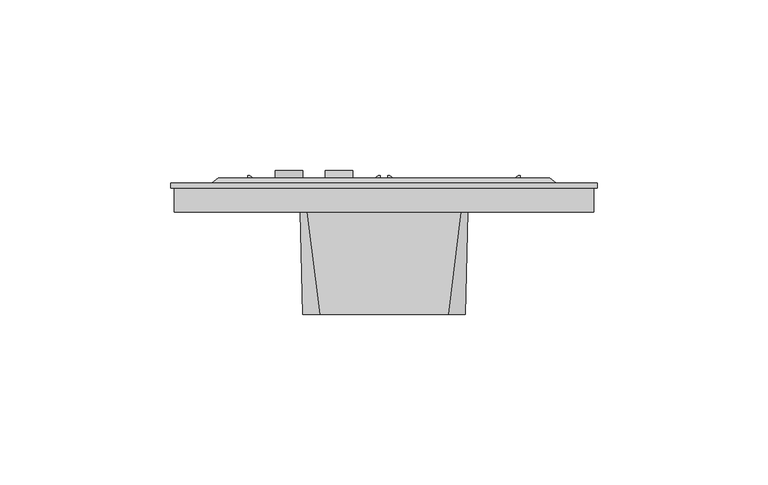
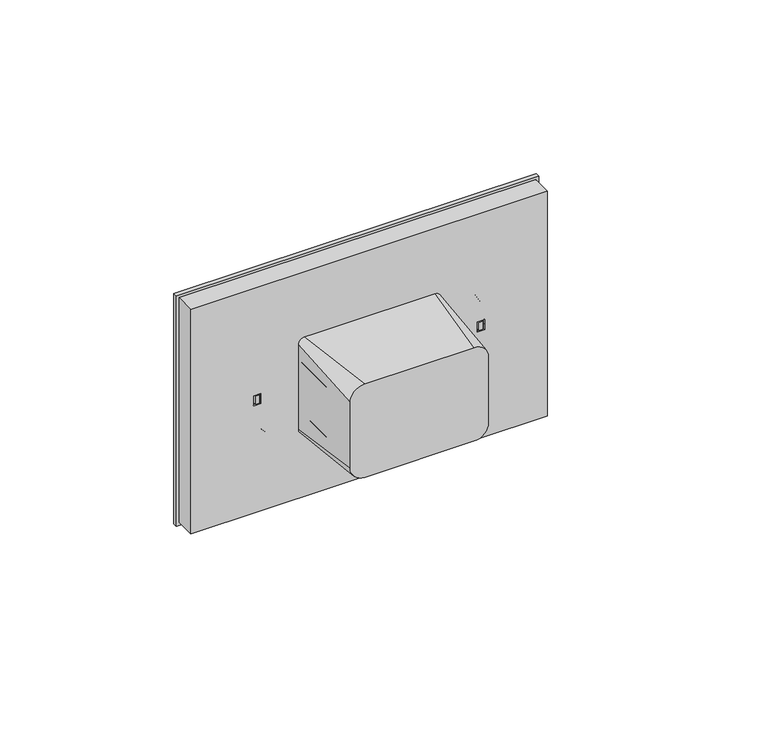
"""IFC4 building model written with IfcOpenShell, lengths in millimetres: proxy geometry, IEK_Brite_Розетка_2гн : 230 В PE_РС12-3-БрА."""

from ifc_helpers import new_model, si_unit, point, frame, frame_2d, origin, place, context, project, spatial, polyline, circle_curve, ellipse_curve, trimmed, segment, composite_curve, outline, extrude, source, transform, mapped, element, save
from ifc_brep_helpers import plane_surface, cylinder_surface, revolved_surface, spline_surface, advanced_brep


def electrical_fixtures_ccb00a8f(model_context):
    return source(origin(), model_context, "Body", "SolidModel", [
        advanced_brep(
        [(20.5, 0.0, -6.3904783), (20.5, 0.0, -11.8753617), (20.5, 0.5, -11.8753617), (20.5, 0.5, -6.3904783), (20.5, 0.0, 3.0105286), (20.5, 0.0, -3.0105286), (20.5, 0.5, -3.0105286), (20.5, 0.5, 3.0105286), (20.5, 0.0, 11.8753617), (20.5, 0.0, 6.3904783), (20.5, 0.5, 6.3904783), (20.5, 0.5, 11.8753617), (39.8280847, 0.0, -1.7917908), (39.8280847, 0.0, 0.0), (39.8280847, 0.5, 0.0), (39.8280847, 0.5, -1.7917908), (39.8280847, 0.0, 1.7917908), (39.8280847, 0.5, 1.7917908), (37.3280847, 0.0, 1.7917908), (37.3280847, 0.5, 1.7917908), (37.3280847, 0.0, 0.0), (37.3280847, 0.5, 0.0), (37.3280847, 0.0, -1.7917908), (37.3280847, 0.5, -1.7917908), (1.1719153, 0.0, -1.7917908), (3.6719153, 0.0, -1.7917908), (3.6719153, 0.5, -1.7917908), (1.1719153, 0.5, -1.7917908), (3.6719153, 0.0, 0.0), (3.6719153, 0.5, 0.0), (3.6719153, 0.0, 1.7917908), (3.6719153, 0.5, 1.7917908), (1.1719153, 0.0, 1.7917908), (1.1719153, 0.5, 1.7917908), (1.1719153, 0.0, 0.0), (1.1719153, 0.5, 0.0), (-20.5, 0.0, -6.3904783), (-20.5, 0.0, -11.8753617), (-20.5, 0.5, -11.8753617), (-20.5, 0.5, -6.3904783), (-20.5, 0.0, 3.0105286), (-20.5, 0.0, -3.0105286), (-20.5, 0.5, -3.0105286), (-20.5, 0.5, 3.0105286), (-20.5, 0.0, 11.8753617), (-20.5, 0.0, 6.3904783), (-20.5, 0.5, 6.3904783), (-20.5, 0.5, 11.8753617), (-39.8280847, 0.0, -1.7917908), (-37.3280847, 0.0, -1.7917908), (-37.3280847, 0.5, -1.7917908), (-39.8280847, 0.5, -1.7917908), (-37.3280847, 0.0, 0.0), (-37.3280847, 0.5, 0.0), (-37.3280847, 0.0, 1.7917908), (-37.3280847, 0.5, 1.7917908), (-39.8280847, 0.0, 1.7917908), (-39.8280847, 0.5, 1.7917908), (-39.8280847, 0.0, 0.0), (-39.8280847, 0.5, 0.0), (-1.1719153, 0.0, -1.7917908), (-1.1719153, 0.0, 0.0), (-1.1719153, 0.5, 0.0), (-1.1719153, 0.5, -1.7917908), (-1.1719153, 0.0, 1.7917908), (-1.1719153, 0.5, 1.7917908), (-3.6719153, 0.0, 1.7917908), (-3.6719153, 0.5, 1.7917908), (-3.6719153, 0.0, 0.0), (-3.6719153, 0.5, 0.0), (-3.6719153, 0.0, -1.7917908), (-3.6719153, 0.5, -1.7917908), (-48.5, 10.0, 28.0), (48.5, 10.0, 28.0), (48.5, 10.0, -28.0), (-48.5, 10.0, -28.0), (-0.5, 10.0, 0.0), (-40.5, 10.0, 0.0), (40.5, 10.0, 0.0), (0.5, 10.0, 0.0), (-50.5, 8.5, -30.0), (-50.5, 8.5, 30.0), (50.5, 8.5, -30.0), (50.5, 8.5, 30.0), (-0.5, 0.5, 0.0), (-40.5, 0.5, 0.0), (40.5, 0.5, 0.0), (0.5, 0.5, 0.0), (-62.5, 7.0, 42.0), (-62.5, 7.0, -42.0), (62.5, 7.0, -42.0), (62.5, 7.0, 42.0), (-61.5, 7.0, -41.0), (-61.5, 7.0, 41.0), (61.5, 7.0, 41.0), (61.5, 7.0, -41.0), (-62.5, 8.5, 42.0), (62.5, 8.5, 42.0), (62.5, 8.5, -42.0), (-62.5, 8.5, -42.0), (-61.5, 0.0, 41.0), (-61.5, 0.0, -41.0), (61.5, 0.0, -41.0), (61.5, 0.0, 41.0)],
        [
            (0, 1, circle_curve(frame((20.5, 0.0, -9.13292), z_axis=(0.0, -1.0, 0.0), x_axis=(0.0, 0.0, -1.0)), 2.7424417)),
            (1, 2),
            (2, 3, circle_curve(frame((20.5, 0.5, -9.13292), z_axis=(0.0, 1.0, 0.0), x_axis=(0.0, 0.0, -1.0)), 2.7424417)),
            (3, 0),
            (1, 0, circle_curve(frame((20.5, 0.0, -9.13292), z_axis=(0.0, -1.0, 0.0), x_axis=(0.0, 0.0, -1.0)), 2.7424417)),
            (3, 2, circle_curve(frame((20.5, 0.5, -9.13292), z_axis=(0.0, 1.0, 0.0), x_axis=(0.0, 0.0, -1.0)), 2.7424417)),
            (4, 5, circle_curve(frame((20.5, 0.0, 0.0), z_axis=(0.0, -1.0, 0.0), x_axis=(0.0, 0.0, -1.0)), 3.0105286)),
            (5, 6),
            (6, 7, circle_curve(frame((20.5, 0.5, 0.0), z_axis=(0.0, 1.0, 0.0), x_axis=(0.0, 0.0, -1.0)), 3.0105286)),
            (7, 4),
            (5, 4, circle_curve(frame((20.5, 0.0, 0.0), z_axis=(0.0, -1.0, 0.0), x_axis=(0.0, 0.0, -1.0)), 3.0105286)),
            (7, 6, circle_curve(frame((20.5, 0.5, 0.0), z_axis=(0.0, 1.0, 0.0), x_axis=(0.0, 0.0, -1.0)), 3.0105286)),
            (8, 9, circle_curve(frame((20.5, 0.0, 9.13292), z_axis=(0.0, -1.0, 0.0), x_axis=(0.0, 0.0, -1.0)), 2.7424417)),
            (9, 10),
            (10, 11, circle_curve(frame((20.5, 0.5, 9.13292), z_axis=(0.0, 1.0, 0.0), x_axis=(0.0, 0.0, -1.0)), 2.7424417)),
            (11, 8),
            (9, 8, circle_curve(frame((20.5, 0.0, 9.13292), z_axis=(0.0, -1.0, 0.0), x_axis=(0.0, 0.0, -1.0)), 2.7424417)),
            (11, 10, circle_curve(frame((20.5, 0.5, 9.13292), z_axis=(0.0, 1.0, 0.0), x_axis=(0.0, 0.0, -1.0)), 2.7424417)),
            (12, 13),
            (13, 14),
            (14, 15),
            (15, 12),
            (13, 16),
            (16, 17),
            (17, 14),
            (16, 18),
            (18, 19),
            (19, 17),
            (18, 20),
            (20, 21),
            (21, 19),
            (20, 22),
            (22, 23),
            (23, 21),
            (22, 12),
            (15, 23),
            (24, 25),
            (25, 26),
            (26, 27),
            (27, 24),
            (25, 28),
            (28, 29),
            (29, 26),
            (28, 30),
            (30, 31),
            (31, 29),
            (30, 32),
            (32, 33),
            (33, 31),
            (32, 34),
            (34, 35),
            (35, 33),
            (34, 24),
            (27, 35),
            (36, 37, circle_curve(frame((-20.5, 0.0, -9.13292), z_axis=(0.0, -1.0, 0.0), x_axis=(0.0, 0.0, -1.0)), 2.7424417)),
            (37, 38),
            (38, 39, circle_curve(frame((-20.5, 0.5, -9.13292), z_axis=(0.0, 1.0, 0.0), x_axis=(0.0, 0.0, -1.0)), 2.7424417)),
            (39, 36),
            (37, 36, circle_curve(frame((-20.5, 0.0, -9.13292), z_axis=(0.0, -1.0, 0.0), x_axis=(0.0, 0.0, -1.0)), 2.7424417)),
            (39, 38, circle_curve(frame((-20.5, 0.5, -9.13292), z_axis=(0.0, 1.0, 0.0), x_axis=(0.0, 0.0, -1.0)), 2.7424417)),
            (40, 41, circle_curve(frame((-20.5, 0.0, 0.0), z_axis=(0.0, -1.0, 0.0), x_axis=(0.0, 0.0, -1.0)), 3.0105286)),
            (41, 42),
            (42, 43, circle_curve(frame((-20.5, 0.5, 0.0), z_axis=(0.0, 1.0, 0.0), x_axis=(0.0, 0.0, -1.0)), 3.0105286)),
            (43, 40),
            (41, 40, circle_curve(frame((-20.5, 0.0, 0.0), z_axis=(0.0, -1.0, 0.0), x_axis=(0.0, 0.0, -1.0)), 3.0105286)),
            (43, 42, circle_curve(frame((-20.5, 0.5, 0.0), z_axis=(0.0, 1.0, 0.0), x_axis=(0.0, 0.0, -1.0)), 3.0105286)),
            (44, 45, circle_curve(frame((-20.5, 0.0, 9.13292), z_axis=(0.0, -1.0, 0.0), x_axis=(0.0, 0.0, -1.0)), 2.7424417)),
            (45, 46),
            (46, 47, circle_curve(frame((-20.5, 0.5, 9.13292), z_axis=(0.0, 1.0, 0.0), x_axis=(0.0, 0.0, -1.0)), 2.7424417)),
            (47, 44),
            (45, 44, circle_curve(frame((-20.5, 0.0, 9.13292), z_axis=(0.0, -1.0, 0.0), x_axis=(0.0, 0.0, -1.0)), 2.7424417)),
            (47, 46, circle_curve(frame((-20.5, 0.5, 9.13292), z_axis=(0.0, 1.0, 0.0), x_axis=(0.0, 0.0, -1.0)), 2.7424417)),
            (48, 49),
            (49, 50),
            (50, 51),
            (51, 48),
            (49, 52),
            (52, 53),
            (53, 50),
            (52, 54),
            (54, 55),
            (55, 53),
            (54, 56),
            (56, 57),
            (57, 55),
            (56, 58),
            (58, 59),
            (59, 57),
            (58, 48),
            (51, 59),
            (60, 61),
            (61, 62),
            (62, 63),
            (63, 60),
            (61, 64),
            (64, 65),
            (65, 62),
            (64, 66),
            (66, 67),
            (67, 65),
            (66, 68),
            (68, 69),
            (69, 67),
            (68, 70),
            (70, 71),
            (71, 69),
            (70, 60),
            (63, 71),
            (72, 73),
            (73, 74),
            (74, 75),
            (75, 72),
            (76, 77, circle_curve(frame((-20.5, 10.0, 0.0), z_axis=(0.0, -1.0, 0.0), x_axis=(-1.0, 0.0, 0.0)), 20.0)),
            (77, 76, circle_curve(frame((-20.5, 10.0, 0.0), z_axis=(0.0, -1.0, 0.0), x_axis=(-1.0, 0.0, 0.0)), 20.0)),
            (78, 79, circle_curve(frame((20.5, 10.0, 0.0), z_axis=(0.0, -1.0, 0.0), x_axis=(-1.0, 0.0, 0.0)), 20.0)),
            (79, 78, circle_curve(frame((20.5, 10.0, 0.0), z_axis=(0.0, -1.0, 0.0), x_axis=(-1.0, 0.0, 0.0)), 20.0)),
            (75, 80),
            (80, 81),
            (81, 72),
            (74, 82),
            (82, 80),
            (73, 83),
            (83, 82),
            (81, 83),
            (84, 85, circle_curve(frame((-20.5, 0.5, 0.0), z_axis=(0.0, 1.0, 0.0), x_axis=(-1.0, 0.0, 0.0)), 20.0)),
            (85, 84, circle_curve(frame((-20.5, 0.5, 0.0), z_axis=(0.0, 1.0, 0.0), x_axis=(-1.0, 0.0, 0.0)), 20.0)),
            (86, 87, circle_curve(frame((20.5, 0.5, 0.0), z_axis=(0.0, 1.0, 0.0), x_axis=(-1.0, 0.0, 0.0)), 20.0)),
            (87, 86, circle_curve(frame((20.5, 0.5, 0.0), z_axis=(0.0, 1.0, 0.0), x_axis=(-1.0, 0.0, 0.0)), 20.0)),
            (85, 77),
            (76, 84),
            (87, 79),
            (78, 86),
            (88, 89),
            (89, 90),
            (90, 91),
            (91, 88),
            (92, 93),
            (93, 94),
            (94, 95),
            (95, 92),
            (96, 97),
            (97, 98),
            (98, 99),
            (99, 96),
            (91, 97),
            (96, 88),
            (90, 98),
            (89, 99),
            (100, 101),
            (101, 102),
            (102, 103),
            (103, 100),
            (100, 93),
            (92, 101),
            (95, 102),
            (94, 103),
        ],
        [
            revolved_surface(polyline([(20.5, 0.0, -11.875361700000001), (20.5, 0.5, -11.875361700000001)]), (20.5, 1.0, -9.13292), (0.0, -1.0, 0.0)),
            revolved_surface(polyline([(20.5, 0.0, -3.0105286), (20.5, 0.5, -3.0105286)]), (20.5, -2.0, 0.0), (0.0, -1.0, 0.0)),
            revolved_surface(polyline([(20.5, 0.0, 6.3904783), (20.5, 0.5, 6.3904783)]), (20.5, -2.0, 9.13292), (0.0, -1.0, 0.0)),
            plane_surface(frame((39.8280847, -13.4962918, -1.7917908), z_axis=(-1.0, 0.0, 0.0), x_axis=(0.0, 1.0, 0.0))),
            plane_surface(frame((39.8280847, -13.4962918, 0.0), z_axis=(-1.0, 0.0, 0.0), x_axis=(0.0, 1.0, 0.0))),
            plane_surface(frame((39.8280847, -13.4962918, 1.7917908), z_axis=(0.0, 0.0, -1.0), x_axis=(0.0, 1.0, 0.0))),
            plane_surface(frame((37.3280847, -13.4962918, 1.7917908), z_axis=(1.0, 0.0, 0.0), x_axis=(0.0, 1.0, 0.0))),
            plane_surface(frame((37.3280847, -13.4962918, 0.0), z_axis=(1.0, 0.0, 0.0), x_axis=(0.0, 1.0, 0.0))),
            plane_surface(frame((37.3280847, -13.4962918, -1.7917908), z_axis=(0.0, 0.0, 1.0), x_axis=(0.0, 1.0, 0.0))),
            plane_surface(frame((1.1719153, -13.4962918, -1.7917908), z_axis=(0.0, 0.0, 1.0), x_axis=(0.0, 1.0, 0.0))),
            plane_surface(frame((3.6719153, -13.4962918, -1.7917908), z_axis=(-1.0, 0.0, 0.0), x_axis=(0.0, 1.0, 0.0))),
            plane_surface(frame((3.6719153, -13.4962918, 0.0), z_axis=(-1.0, 0.0, 0.0), x_axis=(0.0, 1.0, 0.0))),
            plane_surface(frame((3.6719153, -13.4962918, 1.7917908), z_axis=(0.0, 0.0, -1.0), x_axis=(0.0, 1.0, 0.0))),
            plane_surface(frame((1.1719153, -13.4962918, 1.7917908), z_axis=(1.0, 0.0, 0.0), x_axis=(0.0, 1.0, 0.0))),
            plane_surface(frame((1.1719153, -13.4962918, 0.0), z_axis=(1.0, 0.0, 0.0), x_axis=(0.0, 1.0, 0.0))),
            revolved_surface(polyline([(-20.5, 0.0, -11.875361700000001), (-20.5, 0.5, -11.875361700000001)]), (-20.5, -2.0, -9.13292), (0.0, -1.0, 0.0)),
            revolved_surface(polyline([(-20.5, 0.0, -3.0105286), (-20.5, 0.5, -3.0105286)]), (-20.5, -2.0, 0.0), (0.0, -1.0, 0.0)),
            revolved_surface(polyline([(-20.5, 0.0, 6.3904783), (-20.5, 0.5, 6.3904783)]), (-20.5, -2.0, 9.13292), (0.0, -1.0, 0.0)),
            plane_surface(frame((-39.8280847, -13.4962918, -1.7917908), z_axis=(0.0, 0.0, 1.0), x_axis=(0.0, 1.0, 0.0))),
            plane_surface(frame((-37.3280847, -13.4962918, -1.7917908), z_axis=(-1.0, 0.0, 0.0), x_axis=(0.0, 1.0, 0.0))),
            plane_surface(frame((-37.3280847, -13.4962918, 0.0), z_axis=(-1.0, 0.0, 0.0), x_axis=(0.0, 1.0, 0.0))),
            plane_surface(frame((-37.3280847, -13.4962918, 1.7917908), z_axis=(0.0, 0.0, -1.0), x_axis=(0.0, 1.0, 0.0))),
            plane_surface(frame((-39.8280847, -13.4962918, 1.7917908), z_axis=(1.0, 0.0, 0.0), x_axis=(0.0, 1.0, 0.0))),
            plane_surface(frame((-39.8280847, -13.4962918, 0.0), z_axis=(1.0, 0.0, 0.0), x_axis=(0.0, 1.0, 0.0))),
            plane_surface(frame((-1.1719153, -13.4962918, -1.7917908), z_axis=(-1.0, 0.0, 0.0), x_axis=(0.0, 1.0, 0.0))),
            plane_surface(frame((-1.1719153, -13.4962918, 0.0), z_axis=(-1.0, 0.0, 0.0), x_axis=(0.0, 1.0, 0.0))),
            plane_surface(frame((-1.1719153, -13.4962918, 1.7917908), z_axis=(0.0, 0.0, -1.0), x_axis=(0.0, 1.0, 0.0))),
            plane_surface(frame((-3.6719153, -13.4962918, 1.7917908), z_axis=(1.0, 0.0, 0.0), x_axis=(0.0, 1.0, 0.0))),
            plane_surface(frame((-3.6719153, -13.4962918, 0.0), z_axis=(1.0, 0.0, 0.0), x_axis=(0.0, 1.0, 0.0))),
            plane_surface(frame((-3.6719153, -13.4962918, -1.7917908), z_axis=(0.0, 0.0, 1.0), x_axis=(0.0, 1.0, 0.0))),
            plane_surface(frame((0.0, 10.0, 0.0), z_axis=(0.0, 1.0, 0.0), x_axis=(1.0, 0.0, 0.0))),
            plane_surface(frame((-48.5, 10.0, 0.0), z_axis=(-0.5999999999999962, 0.8000000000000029, 0.0), x_axis=(0.0, 0.0, -1.0))),
            plane_surface(frame((0.0, 10.0, -28.0), z_axis=(0.0, 0.7999999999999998, -0.6000000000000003), x_axis=(1.0, 0.0, 0.0))),
            plane_surface(frame((48.5, 10.0, 0.0), z_axis=(0.6000000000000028, 0.7999999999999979, 0.0), x_axis=(0.0, 0.0, 1.0))),
            plane_surface(frame((0.0, 10.0, 28.0), z_axis=(0.0, 0.7999999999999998, 0.6000000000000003), x_axis=(-1.0, 0.0, 0.0))),
            plane_surface(frame((-40.5, 0.5, 0.0), z_axis=(0.0, 1.0, 0.0), x_axis=(0.0, 0.0, -1.0))),
            revolved_surface(polyline([(-40.5, 10.0, 0.0), (-40.5, 0.5, 0.0)]), (-20.5, 0.5, 0.0), (0.0, 1.0, 0.0)),
            revolved_surface(polyline([(0.5, 10.0, 0.0), (0.5, 0.5, 0.0)]), (20.5, 0.0, 0.0), (0.0, 1.0, 0.0)),
            plane_surface(frame((62.5, 7.0, 42.0), z_axis=(0.0, -1.0, 0.0), x_axis=(-1.0, 0.0, 0.0))),
            plane_surface(frame((62.5, 8.5, 42.0), z_axis=(0.0, 1.0, 0.0), x_axis=(1.0, 0.0, 0.0))),
            plane_surface(frame((-62.5, 8.5, 42.0), z_axis=(0.0, 0.0, 1.0), x_axis=(0.0, -1.0, 0.0))),
            plane_surface(frame((62.5, 8.5, 42.0), z_axis=(1.0, 0.0, 0.0), x_axis=(0.0, -1.0, 0.0))),
            plane_surface(frame((62.5, 8.5, -42.0), z_axis=(0.0, 0.0, -1.0), x_axis=(0.0, -1.0, 0.0))),
            plane_surface(frame((-62.5, 8.5, -42.0), z_axis=(-1.0, 0.0, 0.0), x_axis=(0.0, -1.0, 0.0))),
            plane_surface(frame((-61.5, 0.0, 41.0), z_axis=(0.0, -1.0, 0.0), x_axis=(0.0, 0.0, -1.0))),
            plane_surface(frame((-61.5, 0.0, 41.0), z_axis=(-1.0, 0.0, 0.0), x_axis=(0.0, 1.0, 0.0))),
            plane_surface(frame((-61.5, 0.0, -41.0), z_axis=(0.0, 0.0, -1.0), x_axis=(0.0, 1.0, 0.0))),
            plane_surface(frame((61.5, 0.0, -41.0), z_axis=(1.0, 0.0, 0.0), x_axis=(0.0, 1.0, 0.0))),
            plane_surface(frame((61.5, 0.0, 41.0), z_axis=(0.0, 0.0, 1.0), x_axis=(0.0, 1.0, 0.0))),
        ],
        [
            (0, [[1, 2, 3, 4]]),
            (0, [[5, -4, 6, -2]]),
            (1, [[7, 8, 9, 10]]),
            (1, [[11, -10, 12, -8]]),
            (2, [[13, 14, 15, 16]]),
            (2, [[17, -16, 18, -14]]),
            (3, [[19, 20, 21, 22]]),
            (4, [[23, 24, 25, -20]]),
            (5, [[26, 27, 28, -24]]),
            (6, [[29, 30, 31, -27]]),
            (7, [[32, 33, 34, -30]]),
            (8, [[35, -22, 36, -33]]),
            (9, [[37, 38, 39, 40]]),
            (10, [[41, 42, 43, -38]]),
            (11, [[44, 45, 46, -42]]),
            (12, [[47, 48, 49, -45]]),
            (13, [[50, 51, 52, -48]]),
            (14, [[53, -40, 54, -51]]),
            (15, [[55, 56, 57, 58]]),
            (15, [[59, -58, 60, -56]]),
            (16, [[61, 62, 63, 64]]),
            (16, [[65, -64, 66, -62]]),
            (17, [[67, 68, 69, 70]]),
            (17, [[71, -70, 72, -68]]),
            (18, [[73, 74, 75, 76]]),
            (19, [[77, 78, 79, -74]]),
            (20, [[80, 81, 82, -78]]),
            (21, [[83, 84, 85, -81]]),
            (22, [[86, 87, 88, -84]]),
            (23, [[89, -76, 90, -87]]),
            (24, [[91, 92, 93, 94]]),
            (25, [[95, 96, 97, -92]]),
            (26, [[98, 99, 100, -96]]),
            (27, [[101, 102, 103, -99]]),
            (28, [[104, 105, 106, -102]]),
            (29, [[107, -94, 108, -105]]),
            (30, [[109, 110, 111, 112], [113, 114], [115, 116]]),
            (31, [[-112, 117, 118, 119]]),
            (32, [[-111, 120, 121, -117]]),
            (33, [[-110, 122, 123, -120]]),
            (34, [[-109, -119, 124, -122]]),
            (35, [[125, 126], [-57, -60], [-63, -66], [-69, -72], [-75, -79, -82, -85, -88, -90], [-93, -97, -100, -103, -106, -108]]),
            (35, [[127, 128], [-3, -6], [-9, -12], [-15, -18], [-21, -25, -28, -31, -34, -36], [-39, -43, -46, -49, -52, -54]]),
            (36, [[-126, 129, -113, 130]]),
            (36, [[-125, -130, -114, -129]]),
            (37, [[-128, 131, -115, 132]]),
            (37, [[-127, -132, -116, -131]]),
            (38, [[133, 134, 135, 136], [137, 138, 139, 140]]),
            (39, [[141, 142, 143, 144], [-118, -121, -123, -124]]),
            (40, [[-136, 145, -141, 146]]),
            (41, [[-135, 147, -142, -145]]),
            (42, [[-134, 148, -143, -147]]),
            (43, [[-133, -146, -144, -148]]),
            (44, [[149, 150, 151, 152], [-1, -5], [-7, -11], [-13, -17], [-19, -35, -32, -29, -26, -23], [-37, -53, -50, -47, -44, -41], [-55, -59], [-61, -65], [-67, -71], [-73, -89, -86, -83, -80, -77], [-91, -107, -104, -101, -98, -95]]),
            (45, [[-149, 153, -137, 154]]),
            (46, [[-150, -154, -140, 155]]),
            (47, [[-151, -155, -139, 156]]),
            (48, [[-152, -156, -138, -153]]),
        ],
    ),
        advanced_brep(
        [(-20.5, 1.3649081, 0.0), (-17.6013083, 0.578125, 0.0), (-23.3986917, 0.578125, 0.0), (-17.6013083, -1.2, 0.0), (-23.3986917, -1.2, 0.0), (-20.5, -1.2, 0.0)],
        [
            (0, 1, ellipse_curve(frame((-20.34375, 0.578125, 0.0), z_axis=(0.0, 0.0, -1.0), x_axis=(1.0, 0.0, 0.0)), 2.7424417, 0.7880633)),
            (1, 2, circle_curve(frame((-20.5, 0.578125, 0.0), z_axis=(0.0, 1.0, 0.0), x_axis=(1.0, 0.0, 0.0)), 2.8986917)),
            (2, 0, ellipse_curve(frame((-20.65625, 0.578125, 0.0), z_axis=(0.0, 0.0, -1.0), x_axis=(-1.0, 0.0, 0.0)), 2.7424417, 0.7880633)),
            (2, 1, circle_curve(frame((-20.5, 0.578125, 0.0), z_axis=(0.0, 1.0, 0.0), x_axis=(1.0, 0.0, 0.0)), 2.8986917)),
            (1, 3),
            (3, 4, circle_curve(frame((-20.5, -1.2, 0.0), z_axis=(0.0, 1.0, 0.0), x_axis=(1.0, 0.0, 0.0)), 2.8986917)),
            (4, 2),
            (4, 3, circle_curve(frame((-20.5, -1.2, 0.0), z_axis=(0.0, 1.0, 0.0), x_axis=(1.0, 0.0, 0.0)), 2.8986917)),
            (3, 5),
            (5, 4),
        ],
        [
            revolved_surface(trimmed(ellipse_curve(frame((-20.34375, 0.578125, 0.0), z_axis=(0.0, 0.0, 1.0), x_axis=(1.0, 0.0, 0.0)), 2.7424417, 0.7880633), [point((-17.6013083, 0.578125, 0.0))], [point((-20.5, 1.3649081, 0.0))], True, "CARTESIAN"), (-20.5, -2.5228134, 0.0), (0.0, 1.0, 0.0)),
            cylinder_surface(frame((-20.5, -2.5228134, 0.0), z_axis=(0.0, 1.0, 0.0), x_axis=(1.0, 0.0, 0.0)), 2.8986917),
            plane_surface(frame((-20.5, -1.2, 0.0), z_axis=(0.0, -1.0, 0.0), x_axis=(1.0, 0.0, 0.0))),
        ],
        [
            (0, [[1, 2, 3]]),
            (0, [[-3, 4, -1]]),
            (1, [[-2, 5, 6, 7]]),
            (1, [[-4, -7, 8, -5]]),
            (2, [[-6, 9, 10]]),
            (2, [[-8, -10, -9]]),
        ],
    ),
        advanced_brep(
        [(20.5, 1.3649081, 0.0), (23.3986917, 0.578125, 0.0), (17.6013083, 0.578125, 0.0), (23.3986917, -1.2, 0.0), (17.6013083, -1.2, 0.0), (20.5, -1.2, 0.0)],
        [
            (0, 1, ellipse_curve(frame((20.65625, 0.578125, 0.0), z_axis=(0.0, 0.0, -1.0), x_axis=(1.0, 0.0, 0.0)), 2.7424417, 0.7880633)),
            (1, 2, circle_curve(frame((20.5, 0.578125, 0.0), z_axis=(0.0, 1.0, 0.0), x_axis=(1.0, 0.0, 0.0)), 2.8986917)),
            (2, 0, ellipse_curve(frame((20.34375, 0.578125, 0.0), z_axis=(0.0, 0.0, -1.0), x_axis=(-1.0, 0.0, 0.0)), 2.7424417, 0.7880633)),
            (2, 1, circle_curve(frame((20.5, 0.578125, 0.0), z_axis=(0.0, 1.0, 0.0), x_axis=(1.0, 0.0, 0.0)), 2.8986917)),
            (1, 3),
            (3, 4, circle_curve(frame((20.5, -1.2, 0.0), z_axis=(0.0, 1.0, 0.0), x_axis=(1.0, 0.0, 0.0)), 2.8986917)),
            (4, 2),
            (4, 3, circle_curve(frame((20.5, -1.2, 0.0), z_axis=(0.0, 1.0, 0.0), x_axis=(1.0, 0.0, 0.0)), 2.8986917)),
            (3, 5),
            (5, 4),
        ],
        [
            revolved_surface(trimmed(ellipse_curve(frame((20.65625, 0.578125, 0.0), z_axis=(0.0, 0.0, 1.0), x_axis=(1.0, 0.0, 0.0)), 2.7424417, 0.7880633), [point((23.3986917, 0.578125, 0.0))], [point((20.5, 1.3649081, 0.0))], True, "CARTESIAN"), (20.5, -2.5228134, 0.0), (0.0, 1.0, 0.0)),
            cylinder_surface(frame((20.5, -2.5228134, 0.0), z_axis=(0.0, 1.0, 0.0), x_axis=(1.0, 0.0, 0.0)), 2.8986917),
            plane_surface(frame((20.5, -1.2, 0.0), z_axis=(0.0, -1.0, 0.0), x_axis=(1.0, 0.0, 0.0))),
        ],
        [
            (0, [[1, 2, 3]]),
            (0, [[-3, 4, -1]]),
            (1, [[-2, 5, 6, 7]]),
            (1, [[-4, -7, 8, -5]]),
            (2, [[-6, 9, 10]]),
            (2, [[-8, -10, -9]]),
        ],
    ),
        extrude(outline(composite_curve([segment(polyline([(-16.488464, -17.2019408), (-19.7261959, -17.2019408)]), True, "CONTINUOUS"), segment(trimmed(circle_curve(frame_2d((0.0, -20.5)), 20.0), [point((-19.7261959, -17.2019408))], [point((-16.488464, -9.1805232))], False, "CARTESIAN"), True, "CONTINUOUS"), segment(polyline([(-16.488464, -9.1805232), (-16.488464, -17.2019408)]), True, "CONTINUOUS")], self_intersect=False)), frame((0.0, 0.5, 0.0), z_axis=(0.0, 1.0, 0.0), x_axis=(0.0, 0.0, 1.0)), (0.0, 0.0, 1.0), 11.7142117),
        extrude(outline(composite_curve([segment(polyline([(-16.488464, -23.7980592), (-16.488464, -31.8194768)]), True, "CONTINUOUS"), segment(trimmed(circle_curve(frame_2d((0.0, -20.5)), 20.0), [point((-16.488464, -31.8194768))], [point((-19.7261959, -23.7980592))], False, "CARTESIAN"), True, "CONTINUOUS"), segment(polyline([(-19.7261959, -23.7980592), (-16.488464, -23.7980592)]), True, "CONTINUOUS")], self_intersect=False)), frame((0.0, 0.5, 0.0), z_axis=(0.0, 1.0, 0.0), x_axis=(0.0, 0.0, 1.0)), (0.0, 0.0, 1.0), 11.7142117),
        extrude(outline(composite_curve([segment(polyline([(16.488464, -17.2019408), (16.488464, -9.1805232)]), True, "CONTINUOUS"), segment(trimmed(circle_curve(frame_2d((0.0, -20.5)), 20.0), [point((16.488464, -9.1805232))], [point((19.7261959, -17.2019408))], False, "CARTESIAN"), True, "CONTINUOUS"), segment(polyline([(19.7261959, -17.2019408), (16.488464, -17.2019408)]), True, "CONTINUOUS")], self_intersect=False)), frame((0.0, 0.5, 0.0), z_axis=(0.0, 1.0, 0.0), x_axis=(0.0, 0.0, 1.0)), (0.0, 0.0, 1.0), 11.7142117),
        extrude(outline(composite_curve([segment(polyline([(16.488464, -23.7980592), (19.7261959, -23.7980592)]), True, "CONTINUOUS"), segment(trimmed(circle_curve(frame_2d((0.0, -20.5)), 20.0), [point((19.7261959, -23.7980592))], [point((16.488464, -31.8194768))], False, "CARTESIAN"), True, "CONTINUOUS"), segment(polyline([(16.488464, -31.8194768), (16.488464, -23.7980592)]), True, "CONTINUOUS")], self_intersect=False)), frame((0.0, 0.5, 0.0), z_axis=(0.0, 1.0, 0.0), x_axis=(0.0, 0.0, 1.0)), (0.0, 0.0, 1.0), 11.7142117),
        extrude(outline(composite_curve([segment(trimmed(circle_curve(frame_2d((-39.7322549, 9.5501956)), 1.2539127), [point((-39.8739261, 10.7960794))], [point((-38.8510967, 8.6580873))], False, "CARTESIAN"), True, "CONTINUOUS"), segment(polyline([(-38.8510967, 8.6580873), (-37.8437766, 0.0), (-39.1024531, 0.0), (-39.8739261, 10.7960794)]), True, "CONTINUOUS")], self_intersect=False)), frame((0.0, 0.0, -1.5), z_axis=(0.0, 0.0, 1.0), x_axis=(1.0, 0.0, 0.0)), (0.0, 0.0, 1.0), 3.0),
        extrude(outline(composite_curve([segment(polyline([(-1.1260739, 10.7960794), (-1.9832973, -1.2), (-3.2958366, -1.2), (-2.1489033, 8.6580873)]), True, "CONTINUOUS"), segment(trimmed(circle_curve(frame_2d((-1.2677451, 9.5501956)), 1.2539127), [point((-2.1489033, 8.6580873))], [point((-1.1260739, 10.7960794))], False, "CARTESIAN"), True, "CONTINUOUS")], self_intersect=False)), frame((0.0, 0.0, -1.5), z_axis=(0.0, 0.0, 1.0), x_axis=(1.0, 0.0, 0.0)), (0.0, 0.0, 1.0), 3.0),
        extrude(outline(composite_curve([segment(polyline([(39.8739261, 10.7960794), (39.1024531, 0.0), (37.8437766, 0.0), (38.8510967, 8.6580873)]), True, "CONTINUOUS"), segment(trimmed(circle_curve(frame_2d((39.7322549, 9.5501956)), 1.2539127), [point((38.8510967, 8.6580873))], [point((39.8739261, 10.7960794))], False, "CARTESIAN"), True, "CONTINUOUS")], self_intersect=False)), frame((0.0, 0.0, -1.5), z_axis=(0.0, 0.0, 1.0), x_axis=(1.0, 0.0, 0.0)), (0.0, 0.0, 1.0), 3.0),
        extrude(outline(composite_curve([segment(trimmed(circle_curve(frame_2d((1.2677451, 9.5501956)), 1.2539127), [point((1.1260739, 10.7960794))], [point((2.1489033, 8.6580873))], False, "CARTESIAN"), True, "CONTINUOUS"), segment(polyline([(2.1489033, 8.6580873), (3.2958366, -1.2), (1.9832973, -1.2), (1.1260739, 10.7960794)]), True, "CONTINUOUS")], self_intersect=False)), frame((0.0, 0.0, -1.5), z_axis=(0.0, 0.0, 1.0), x_axis=(1.0, 0.0, 0.0)), (0.0, 0.0, 1.0), 3.0),
        advanced_brep(
        [(20.5, -13.4962918, -6.3904783), (20.5, -13.4962918, -11.8753617), (20.5, -13.4962918, 3.0105286), (20.5, -13.4962918, -3.0105286), (20.5, -13.4962918, 11.8753617), (20.5, -13.4962918, 6.3904783), (1.1719153, -13.4962918, -1.7917908), (1.1719153, -13.4962918, 0.0), (1.1719153, -13.4962918, 1.7917908), (3.6719153, -13.4962918, 1.7917908), (3.6719153, -13.4962918, 0.0), (3.6719153, -13.4962918, -1.7917908), (-20.5, -13.4962918, -6.3904783), (-20.5, -13.4962918, -11.8753617), (-20.5, -13.4962918, 3.0105286), (-20.5, -13.4962918, -3.0105286), (-20.5, -13.4962918, 11.8753617), (-20.5, -13.4962918, 6.3904783), (-1.1719153, -13.4962918, -1.7917908), (-3.6719153, -13.4962918, -1.7917908), (-3.6719153, -13.4962918, 0.0), (-3.6719153, -13.4962918, 1.7917908), (-1.1719153, -13.4962918, 1.7917908), (-1.1719153, -13.4962918, 0.0), (20.5, 0.0, -11.8753617), (20.5, 0.0, -6.3904783), (20.5, 0.0, -3.0105286), (20.5, 0.0, 3.0105286), (20.5, 0.0, 6.3904783), (20.5, 0.0, 11.8753617), (3.6719153, 0.0, -1.7917908), (1.1719153, 0.0, -1.7917908), (3.6719153, 0.0, 0.0), (3.6719153, 0.0, 1.7917908), (1.1719153, 0.0, 1.7917908), (1.1719153, 0.0, 0.0), (-20.5, 0.0, -11.8753617), (-20.5, 0.0, -6.3904783), (-20.5, 0.0, -3.0105286), (-20.5, 0.0, 3.0105286), (-20.5, 0.0, 6.3904783), (-20.5, 0.0, 11.8753617), (-1.1719153, 0.0, 0.0), (-1.1719153, 0.0, -1.7917908), (-1.1719153, 0.0, 1.7917908), (-3.6719153, 0.0, 1.7917908), (-3.6719153, 0.0, 0.0), (-3.6719153, 0.0, -1.7917908), (18.8462421, -30.0, -17.0), (23.8462421, -30.0, -12.0), (23.8462421, -30.0, 12.0), (18.8462421, -30.0, 17.0), (-18.8537225, -30.0, 17.0), (-23.8537225, -30.0, 12.0), (-23.8537225, -30.0, -12.0), (-18.8537225, -30.0, -17.0), (22.5422228, 0.0, -17.5), (-22.5960064, 0.0, -17.5), (-24.5960064, 0.0, -15.5), (-24.5960064, 0.0, 15.5), (-22.5960064, 0.0, 17.5), (22.5422228, 0.0, 17.5), (24.5422228, 0.0, 15.5), (24.5422228, 0.0, -15.5)],
        [
            (0, 1, circle_curve(frame((20.5, -13.4962918, -9.13292), z_axis=(0.0, 1.0, 0.0), x_axis=(0.0, 0.0, -1.0)), 2.7424417)),
            (1, 0, circle_curve(frame((20.5, -13.4962918, -9.13292), z_axis=(0.0, 1.0, 0.0), x_axis=(0.0, 0.0, -1.0)), 2.7424417)),
            (2, 3, circle_curve(frame((20.5, -13.4962918, 0.0), z_axis=(0.0, 1.0, 0.0), x_axis=(0.0, 0.0, -1.0)), 3.0105286)),
            (3, 2, circle_curve(frame((20.5, -13.4962918, 0.0), z_axis=(0.0, 1.0, 0.0), x_axis=(0.0, 0.0, -1.0)), 3.0105286)),
            (4, 5, circle_curve(frame((20.5, -13.4962918, 9.13292), z_axis=(0.0, 1.0, 0.0), x_axis=(0.0, 0.0, -1.0)), 2.7424417)),
            (5, 4, circle_curve(frame((20.5, -13.4962918, 9.13292), z_axis=(0.0, 1.0, 0.0), x_axis=(0.0, 0.0, -1.0)), 2.7424417)),
            (6, 7),
            (7, 8),
            (8, 9),
            (9, 10),
            (10, 11),
            (11, 6),
            (12, 13, circle_curve(frame((-20.5, -13.4962918, -9.13292), z_axis=(0.0, 1.0, 0.0), x_axis=(0.0, 0.0, -1.0)), 2.7424417)),
            (13, 12, circle_curve(frame((-20.5, -13.4962918, -9.13292), z_axis=(0.0, 1.0, 0.0), x_axis=(0.0, 0.0, -1.0)), 2.7424417)),
            (14, 15, circle_curve(frame((-20.5, -13.4962918, 0.0), z_axis=(0.0, 1.0, 0.0), x_axis=(0.0, 0.0, -1.0)), 3.0105286)),
            (15, 14, circle_curve(frame((-20.5, -13.4962918, 0.0), z_axis=(0.0, 1.0, 0.0), x_axis=(0.0, 0.0, -1.0)), 3.0105286)),
            (16, 17, circle_curve(frame((-20.5, -13.4962918, 9.13292), z_axis=(0.0, 1.0, 0.0), x_axis=(0.0, 0.0, -1.0)), 2.7424417)),
            (17, 16, circle_curve(frame((-20.5, -13.4962918, 9.13292), z_axis=(0.0, 1.0, 0.0), x_axis=(0.0, 0.0, -1.0)), 2.7424417)),
            (18, 19),
            (19, 20),
            (20, 21),
            (21, 22),
            (22, 23),
            (23, 18),
            (1, 24),
            (24, 25, circle_curve(frame((20.5, 0.0, -9.13292), z_axis=(0.0, 1.0, 0.0), x_axis=(0.0, 0.0, -1.0)), 2.7424417)),
            (25, 0),
            (25, 24, circle_curve(frame((20.5, 0.0, -9.13292), z_axis=(0.0, 1.0, 0.0), x_axis=(0.0, 0.0, -1.0)), 2.7424417)),
            (3, 26),
            (26, 27, circle_curve(frame((20.5, 0.0, 0.0), z_axis=(0.0, 1.0, 0.0), x_axis=(0.0, 0.0, -1.0)), 3.0105286)),
            (27, 2),
            (27, 26, circle_curve(frame((20.5, 0.0, 0.0), z_axis=(0.0, 1.0, 0.0), x_axis=(0.0, 0.0, -1.0)), 3.0105286)),
            (5, 28),
            (28, 29, circle_curve(frame((20.5, 0.0, 9.13292), z_axis=(0.0, 1.0, 0.0), x_axis=(0.0, 0.0, -1.0)), 2.7424417)),
            (29, 4),
            (29, 28, circle_curve(frame((20.5, 0.0, 9.13292), z_axis=(0.0, 1.0, 0.0), x_axis=(0.0, 0.0, -1.0)), 2.7424417)),
            (11, 30),
            (30, 31),
            (31, 6),
            (10, 32),
            (32, 30),
            (9, 33),
            (33, 32),
            (8, 34),
            (34, 33),
            (7, 35),
            (35, 34),
            (31, 35),
            (13, 36),
            (36, 37, circle_curve(frame((-20.5, 0.0, -9.13292), z_axis=(0.0, 1.0, 0.0), x_axis=(0.0, 0.0, -1.0)), 2.7424417)),
            (37, 12),
            (37, 36, circle_curve(frame((-20.5, 0.0, -9.13292), z_axis=(0.0, 1.0, 0.0), x_axis=(0.0, 0.0, -1.0)), 2.7424417)),
            (15, 38),
            (38, 39, circle_curve(frame((-20.5, 0.0, 0.0), z_axis=(0.0, 1.0, 0.0), x_axis=(0.0, 0.0, -1.0)), 3.0105286)),
            (39, 14),
            (39, 38, circle_curve(frame((-20.5, 0.0, 0.0), z_axis=(0.0, 1.0, 0.0), x_axis=(0.0, 0.0, -1.0)), 3.0105286)),
            (17, 40),
            (40, 41, circle_curve(frame((-20.5, 0.0, 9.13292), z_axis=(0.0, 1.0, 0.0), x_axis=(0.0, 0.0, -1.0)), 2.7424417)),
            (41, 16),
            (41, 40, circle_curve(frame((-20.5, 0.0, 9.13292), z_axis=(0.0, 1.0, 0.0), x_axis=(0.0, 0.0, -1.0)), 2.7424417)),
            (23, 42),
            (42, 43),
            (43, 18),
            (22, 44),
            (44, 42),
            (21, 45),
            (45, 44),
            (20, 46),
            (46, 45),
            (19, 47),
            (47, 46),
            (43, 47),
            (48, 49, circle_curve(frame((18.8462421, -30.0, -12.0), z_axis=(0.0, -1.0, 0.0), x_axis=(0.0, 0.0, -1.0)), 5.0)),
            (49, 50),
            (50, 51, circle_curve(frame((18.8462421, -30.0, 12.0), z_axis=(0.0, -1.0, 0.0), x_axis=(0.0, 0.0, -1.0)), 5.0)),
            (51, 52),
            (52, 53, circle_curve(frame((-18.8537225, -30.0, 12.0), z_axis=(0.0, -1.0, 0.0), x_axis=(0.0, 0.0, -1.0)), 5.0)),
            (53, 54),
            (54, 55, circle_curve(frame((-18.8537225, -30.0, -12.0), z_axis=(0.0, -1.0, 0.0), x_axis=(0.0, 0.0, -1.0)), 5.0)),
            (55, 48),
            (56, 57),
            (57, 58, circle_curve(frame((-22.5960064, 0.0, -15.5), z_axis=(0.0, 1.0, 0.0), x_axis=(0.0, 0.0, -1.0)), 2.0)),
            (58, 59),
            (59, 60, circle_curve(frame((-22.5960064, 0.0, 15.5), z_axis=(0.0, 1.0, 0.0), x_axis=(0.0, 0.0, -1.0)), 2.0)),
            (60, 61),
            (61, 62, circle_curve(frame((22.5422228, 0.0, 15.5), z_axis=(0.0, 1.0, 0.0), x_axis=(0.0, 0.0, -1.0)), 2.0)),
            (62, 63),
            (63, 56, circle_curve(frame((22.5422228, 0.0, -15.5), z_axis=(0.0, 1.0, 0.0), x_axis=(0.0, 0.0, -1.0)), 2.0)),
            (55, 57),
            (56, 48),
            (54, 58),
            (53, 59),
            (52, 60),
            (51, 61),
            (63, 49),
            (62, 50),
        ],
        [
            plane_surface(frame((20.5, -13.4962918, -11.8753617), z_axis=(0.0, 1.0, 0.0), x_axis=(1.0, 0.0, 0.0))),
            revolved_surface(polyline([(20.5, -13.4962918, -11.875361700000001), (20.5, 0.0, -11.875361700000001)]), (20.5, 1.0, -9.13292), (0.0, -1.0, 0.0)),
            revolved_surface(polyline([(20.5, -13.4962918, -3.0105286), (20.5, 0.0, -3.0105286)]), (20.5, -2.0, 0.0), (0.0, -1.0, 0.0)),
            revolved_surface(polyline([(20.5, -13.4962918, 6.3904783), (20.5, 0.0, 6.3904783)]), (20.5, -2.0, 9.13292), (0.0, -1.0, 0.0)),
            plane_surface(frame((1.1719153, -13.4962918, -1.7917908), z_axis=(0.0, 0.0, 1.0), x_axis=(0.0, 1.0, 0.0))),
            plane_surface(frame((3.6719153, -13.4962918, -1.7917908), z_axis=(-1.0, 0.0, 0.0), x_axis=(0.0, 1.0, 0.0))),
            plane_surface(frame((3.6719153, -13.4962918, 0.0), z_axis=(-1.0, 0.0, 0.0), x_axis=(0.0, 1.0, 0.0))),
            plane_surface(frame((3.6719153, -13.4962918, 1.7917908), z_axis=(0.0, 0.0, -1.0), x_axis=(0.0, 1.0, 0.0))),
            plane_surface(frame((1.1719153, -13.4962918, 1.7917908), z_axis=(1.0, 0.0, 0.0), x_axis=(0.0, 1.0, 0.0))),
            plane_surface(frame((1.1719153, -13.4962918, 0.0), z_axis=(1.0, 0.0, 0.0), x_axis=(0.0, 1.0, 0.0))),
            revolved_surface(polyline([(-20.5, -13.4962918, -11.875361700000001), (-20.5, 0.0, -11.875361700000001)]), (-20.5, -2.0, -9.13292), (0.0, -1.0, 0.0)),
            revolved_surface(polyline([(-20.5, -13.4962918, -3.0105286), (-20.5, 0.0, -3.0105286)]), (-20.5, -2.0, 0.0), (0.0, -1.0, 0.0)),
            revolved_surface(polyline([(-20.5, -13.4962918, 6.3904783), (-20.5, 0.0, 6.3904783)]), (-20.5, -2.0, 9.13292), (0.0, -1.0, 0.0)),
            plane_surface(frame((-1.1719153, -13.4962918, -1.7917908), z_axis=(-1.0, 0.0, 0.0), x_axis=(0.0, 1.0, 0.0))),
            plane_surface(frame((-1.1719153, -13.4962918, 0.0), z_axis=(-1.0, 0.0, 0.0), x_axis=(0.0, 1.0, 0.0))),
            plane_surface(frame((-1.1719153, -13.4962918, 1.7917908), z_axis=(0.0, 0.0, -1.0), x_axis=(0.0, 1.0, 0.0))),
            plane_surface(frame((-3.6719153, -13.4962918, 1.7917908), z_axis=(1.0, 0.0, 0.0), x_axis=(0.0, 1.0, 0.0))),
            plane_surface(frame((-3.6719153, -13.4962918, 0.0), z_axis=(1.0, 0.0, 0.0), x_axis=(0.0, 1.0, 0.0))),
            plane_surface(frame((-3.6719153, -13.4962918, -1.7917908), z_axis=(0.0, 0.0, 1.0), x_axis=(0.0, 1.0, 0.0))),
            plane_surface(frame((-0.0037402, -30.0, 0.0), z_axis=(0.0, -1.0, 0.0), x_axis=(1.0, 0.0, 1.4992810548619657e-12))),
            plane_surface(frame((-0.0268918, 0.0, 0.0), z_axis=(0.0, 1.0, 0.0), x_axis=(1.0, 0.0, 1.4992810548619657e-12))),
            plane_surface(frame((-0.0268918, 0.0, -17.5), z_axis=(0.0, -0.016664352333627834, -0.9998611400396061), x_axis=(1.0, 0.0, 0.0))),
            spline_surface(2, 1, [[(-24.5960064, 0.0, -15.5), (-23.8537225, -30.0, -12.0)], [(-24.5960064, 0.0, -17.5), (-23.8537225, -30.0, -17.0)], [(-22.5960064, 0.0, -17.5), (-18.8537225, -30.0, -17.0)]], [3, 3], [2, 2], [0.0, 1.0], [0.0, 1.0], weights=[[1.0, 1.0], [0.7071067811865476, 0.7071067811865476], [1.0, 1.0]]),
            plane_surface(frame((-24.5960064, 0.0, 0.0), z_axis=(-0.9996940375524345, -0.02473522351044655, 0.0), x_axis=(0.0, 0.0, -1.0))),
            spline_surface(2, 1, [[(-22.5960064, 0.0, 17.5), (-18.8537225, -30.0, 17.0)], [(-24.5960064, 0.0, 17.5), (-23.8537225, -30.0, 17.0)], [(-24.5960064, 0.0, 15.5), (-23.8537225, -30.0, 12.0)]], [3, 3], [2, 2], [0.0, 1.0], [0.0, 1.0], weights=[[1.0, 1.0], [0.7071067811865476, 0.7071067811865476], [1.0, 1.0]]),
            plane_surface(frame((-0.0268918, 0.0, 17.5), z_axis=(0.0, -0.016664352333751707, 0.999861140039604), x_axis=(-1.0, 0.0, 0.0))),
            spline_surface(2, 1, [[(22.5422228, 0.0, -17.5), (18.8462421, -30.0, -17.0)], [(24.5422228, 0.0, -17.5), (23.8462421, -30.0, -17.0)], [(24.5422228, 0.0, -15.5), (23.8462421, -30.0, -12.0)]], [3, 3], [2, 2], [0.0, 1.0], [0.0, 1.0], weights=[[1.0, 1.0], [0.7071067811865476, 0.7071067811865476], [1.0, 1.0]]),
            plane_surface(frame((24.5422228, 0.0, 0.0), z_axis=(0.9997310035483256, -0.023193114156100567, 0.0), x_axis=(0.0, 0.0, 1.0))),
            spline_surface(2, 1, [[(24.5422228, 0.0, 15.5), (23.8462421, -30.0, 12.0)], [(24.5422228, 0.0, 17.5), (23.8462421, -30.0, 17.0)], [(22.5422228, 0.0, 17.5), (18.8462421, -30.0, 17.0)]], [3, 3], [2, 2], [0.0, 1.0], [0.0, 1.0], weights=[[1.0, 1.0], [0.7071067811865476, 0.7071067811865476], [1.0, 1.0]]),
        ],
        [
            (0, [[1, 2]]),
            (0, [[3, 4]]),
            (0, [[5, 6]]),
            (0, [[7, 8, 9, 10, 11, 12]]),
            (0, [[13, 14]]),
            (0, [[15, 16]]),
            (0, [[17, 18]]),
            (0, [[19, 20, 21, 22, 23, 24]]),
            (1, [[-2, 25, 26, 27]]),
            (1, [[-1, -27, 28, -25]]),
            (2, [[-4, 29, 30, 31]]),
            (2, [[-3, -31, 32, -29]]),
            (3, [[-6, 33, 34, 35]]),
            (3, [[-5, -35, 36, -33]]),
            (4, [[-12, 37, 38, 39]]),
            (5, [[-11, 40, 41, -37]]),
            (6, [[-10, 42, 43, -40]]),
            (7, [[-9, 44, 45, -42]]),
            (8, [[-8, 46, 47, -44]]),
            (9, [[-7, -39, 48, -46]]),
            (10, [[-14, 49, 50, 51]]),
            (10, [[-13, -51, 52, -49]]),
            (11, [[-16, 53, 54, 55]]),
            (11, [[-15, -55, 56, -53]]),
            (12, [[-18, 57, 58, 59]]),
            (12, [[-17, -59, 60, -57]]),
            (13, [[-24, 61, 62, 63]]),
            (14, [[-23, 64, 65, -61]]),
            (15, [[-22, 66, 67, -64]]),
            (16, [[-21, 68, 69, -66]]),
            (17, [[-20, 70, 71, -68]]),
            (18, [[-19, -63, 72, -70]]),
            (19, [[73, 74, 75, 76, 77, 78, 79, 80]]),
            (20, [[81, 82, 83, 84, 85, 86, 87, 88], [-26, -28], [-30, -32], [-34, -36], [-38, -41, -43, -45, -47, -48], [-50, -52], [-54, -56], [-58, -60], [-62, -65, -67, -69, -71, -72]]),
            (21, [[-80, 89, -81, 90]]),
            (22, [[-79, 91, -82, -89]]),
            (23, [[-78, 92, -83, -91]]),
            (24, [[-77, 93, -84, -92]]),
            (25, [[-76, 94, -85, -93]]),
            (26, [[-73, -90, -88, 95]]),
            (27, [[-74, -95, -87, 96]]),
            (28, [[-75, -96, -86, -94]]),
        ],
    ),
    ])


if __name__ == "__main__":
    model = new_model("IFC4")
    model_context = context("Model", 3, world=origin())
    ifc_project = project(units=[si_unit("LENGTHUNIT", "METRE", prefix="MILLI")], contexts=[model_context])
    site = spatial("IfcSite", under=ifc_project)
    building = spatial("IfcBuilding", under=site)
    placement = place(None, origin())
    electrical_fixtures_shape = electrical_fixtures_ccb00a8f(model_context)
    element("IfcBuildingElementProxy", 1, Name="IEK_Brite_Розетка_2гн : 230 В PE_РС12-3-БрА", ObjectType="IEK_Brite_Розетка_2гн : 230 В PE_РС12-3-БрА", at=placement, inside=building, context=model_context, shape_type="MappedRepresentation", body=[
        mapped(electrical_fixtures_shape, transform((0.0, 0.0, 0.0), x_axis=(1.0, 0.0, 0.0), y_axis=(0.0, 1.0, 0.0), z_axis=(0.0, 0.0, 1.0))),
    ])
    save(model, "model.ifc")
